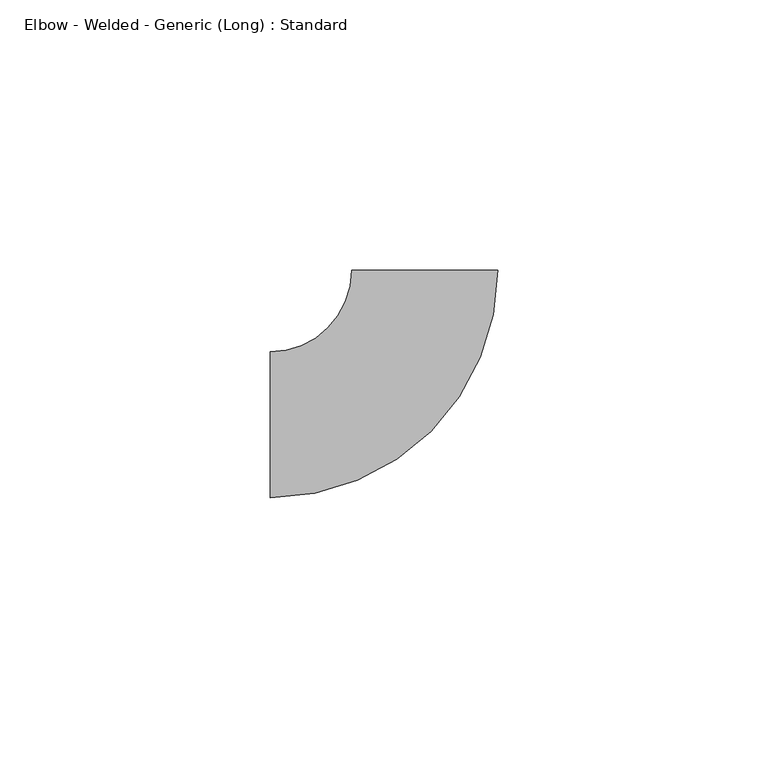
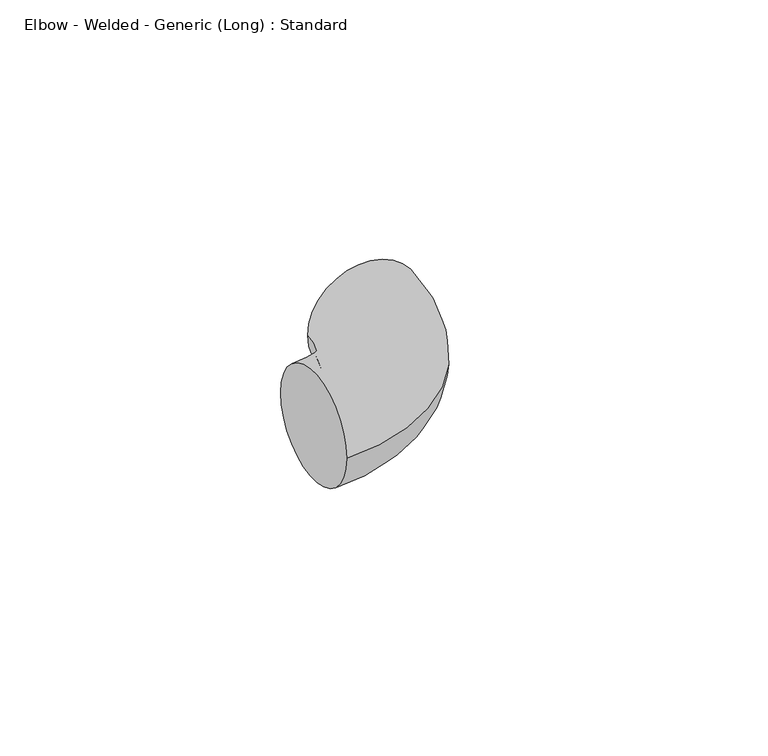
"""IFC4 building model written with IfcOpenShell, lengths in millimetres: pipe fitting geometry, Elbow - Welded - Generic (Long) : Standard."""

from ifc_helpers import new_model, si_unit, point, frame, origin, place, context, project, spatial, circle_curve, ellipse_curve, trimmed, source, transform, mapped, element, save
from ifc_brep_helpers import plane_surface, revolved_surface, advanced_brep


def elbow_welded_generic_long_standard_0ebaa96c(model_context):
    return source(origin(), model_context, "Body", "AdvancedBrep", [
        advanced_brep(
        [(-28.575, -13.49375, 0.0), (-28.575, 13.49375, 0.0), (13.4709975, 28.5857331, 0.0), (-13.5164939, 28.5642487, 0.0)],
        [
            (0, 1, circle_curve(frame((-28.575, 0.0, 0.0), z_axis=(-1.0, 0.0, 0.0), x_axis=(0.0, 1.0, 0.0)), 13.49375)),
            (1, 0, circle_curve(frame((-28.575, 0.0, 0.0), z_axis=(-1.0, 0.0, 0.0), x_axis=(0.0, 1.0, 0.0)), 13.49375)),
            (2, 3, circle_curve(frame((-0.0227482, 28.5749909, 0.0), z_axis=(-0.0007960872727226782, 0.9999996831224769, 0.0), x_axis=(-0.9999996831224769, -0.0007960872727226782, 0.0)), 13.49375)),
            (3, 2, circle_curve(frame((-0.0227482, 28.5749909, 0.0), z_axis=(-0.0007960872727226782, 0.9999996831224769, 0.0), x_axis=(-0.9999996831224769, -0.0007960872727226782, 0.0)), 13.49375)),
            (3, 1, circle_curve(frame((-28.575, 28.5522609, 0.0), z_axis=(0.0, 0.0, -1.0), x_axis=(0.0, -1.0, 0.0)), 15.0585109)),
            (0, 2, circle_curve(frame((-28.575, 28.5522609, 0.0), z_axis=(0.0, 0.0, 1.0), x_axis=(0.0, -1.0, 0.0)), 42.0460109)),
        ],
        [
            plane_surface(frame((-28.575, 0.0, 0.0), z_axis=(-1.0, 0.0, 0.0), x_axis=(0.0, 0.0, 1.0))),
            plane_surface(frame((-0.0227482, 28.5749909, 0.0), z_axis=(-0.0007960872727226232, 0.999999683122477, 0.0), x_axis=(0.0, 0.0, 1.0))),
            revolved_surface(trimmed(ellipse_curve(frame((-28.575, 0.0, 0.0), z_axis=(-1.0, 0.0, 0.0), x_axis=(0.0, 1.0, 0.0)), 13.49375, 13.49375), [point((-28.575, -13.49375, 0.0))], [point((-28.575, 13.49375, 0.0))], True, "CARTESIAN"), (-28.575, 28.5522609, 0.0), (0.0, 0.0, 1.0)),
            revolved_surface(trimmed(ellipse_curve(frame((-28.575, 0.0, 0.0), z_axis=(-1.0, 0.0, 0.0), x_axis=(0.0, 1.0, 0.0)), 13.49375, 13.49375), [point((-28.575, 13.49375, 0.0))], [point((-28.575, -13.49375, 0.0))], True, "CARTESIAN"), (-28.575, 28.5522609, 0.0), (0.0, 0.0, 1.0)),
        ],
        [
            (0, [[1, 2]]),
            (1, [[3, 4]]),
            (2, [[5, -1, 6, -4]]),
            (3, [[-6, -2, -5, -3]]),
        ],
    ),
    ])


if __name__ == "__main__":
    model = new_model("IFC4")
    model_context = context("Model", 3, world=origin())
    ifc_project = project(units=[si_unit("LENGTHUNIT", "METRE", prefix="MILLI")], contexts=[model_context])
    site = spatial("IfcSite", under=ifc_project)
    building = spatial("IfcBuilding", under=site)
    placement = place(None, origin())
    elbow_welded_generic_long_standard_shape = elbow_welded_generic_long_standard_0ebaa96c(model_context)
    element("IfcPipeFitting", 1, ObjectType="Elbow - Welded - Generic (Long) : Standard", at=placement, inside=building, context=model_context, shape_type="MappedRepresentation", body=[
        mapped(elbow_welded_generic_long_standard_shape, transform((0.0, 0.0, 0.0), x_axis=(1.0, 0.0, 0.0), y_axis=(0.0, 1.0, 0.0), z_axis=(0.0, 0.0, 1.0))),
    ])
    save(model, "model.ifc")
